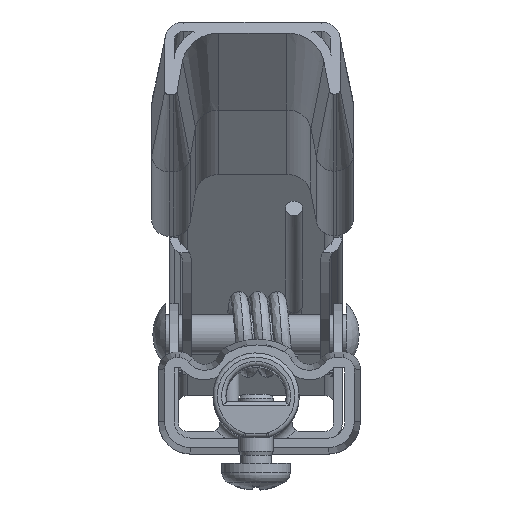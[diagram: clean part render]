
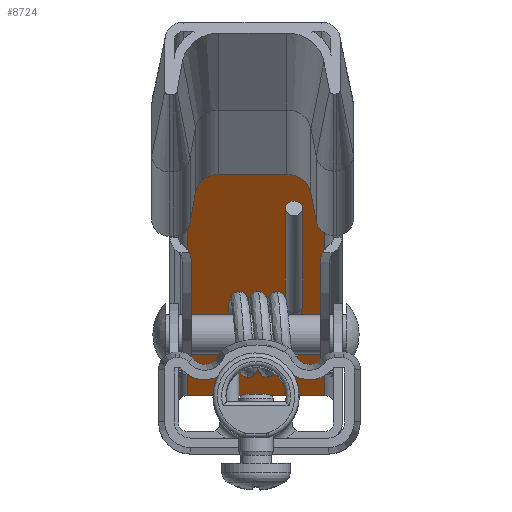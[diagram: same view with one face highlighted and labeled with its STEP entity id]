
A CAD part, top view. The second image highlights one B-rep face of the part: STEP entity #8724.
In plain terms, the highlighted planar face has unit normal (0, -0.955, 0.297).
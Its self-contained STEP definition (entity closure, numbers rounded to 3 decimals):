
#330=PLANE('',#9442);
#1060=FACE_OUTER_BOUND('',#1551,.T.);
#1551=EDGE_LOOP('',(#6766,#6767,#6768,#6769));
#2162=LINE('',#13520,#2870);
#2166=LINE('',#13535,#2874);
#2203=LINE('',#13662,#2911);
#2328=LINE('',#14367,#3036);
#2870=VECTOR('',#10684,10.);
#2874=VECTOR('',#10698,10.);
#2911=VECTOR('',#10795,10.);
#3036=VECTOR('',#11226,10.);
#3580=VERTEX_POINT('',#13517);
#3581=VERTEX_POINT('',#13519);
#3587=VERTEX_POINT('',#13533);
#3647=VERTEX_POINT('',#13661);
#4532=EDGE_CURVE('',#3580,#3581,#2162,.T.);
#4540=EDGE_CURVE('',#3587,#3580,#2166,.T.);
#4603=EDGE_CURVE('',#3647,#3581,#2203,.T.);
#4827=EDGE_CURVE('',#3647,#3587,#2328,.T.);
#6766=ORIENTED_EDGE('',*,*,#4603,.T.);
#6767=ORIENTED_EDGE('',*,*,#4532,.F.);
#6768=ORIENTED_EDGE('',*,*,#4540,.F.);
#6769=ORIENTED_EDGE('',*,*,#4827,.F.);
#8724=ADVANCED_FACE('',(#1060),#330,.T.);
#9442=AXIS2_PLACEMENT_3D('',#14381,#11243,#11244);
#10684=DIRECTION('',(1.,0.,0.));
#10698=DIRECTION('',(0.,0.297,0.955));
#10795=DIRECTION('',(0.,0.297,0.955));
#11226=DIRECTION('',(-1.,0.,0.));
#11243=DIRECTION('center_axis',(0.,-0.955,
0.297));
#11244=DIRECTION('ref_axis',(1.,0.,0.));
#13517=CARTESIAN_POINT('',(-8.,41.043,53.908));
#13519=CARTESIAN_POINT('',(8.,41.043,53.908));
#13520=CARTESIAN_POINT('',(-8.,41.043,53.908));
#13533=CARTESIAN_POINT('',(-8.,5.358,-60.663));
#13535=CARTESIAN_POINT('',(-8.,23.2,-3.377));
#13661=CARTESIAN_POINT('',(8.,5.358,-60.663));
#13662=CARTESIAN_POINT('',(8.,23.2,-3.377));
#14367=CARTESIAN_POINT('',(-8.,5.358,-60.663));
#14381=CARTESIAN_POINT('Origin',(-8.,23.2,-3.377));
